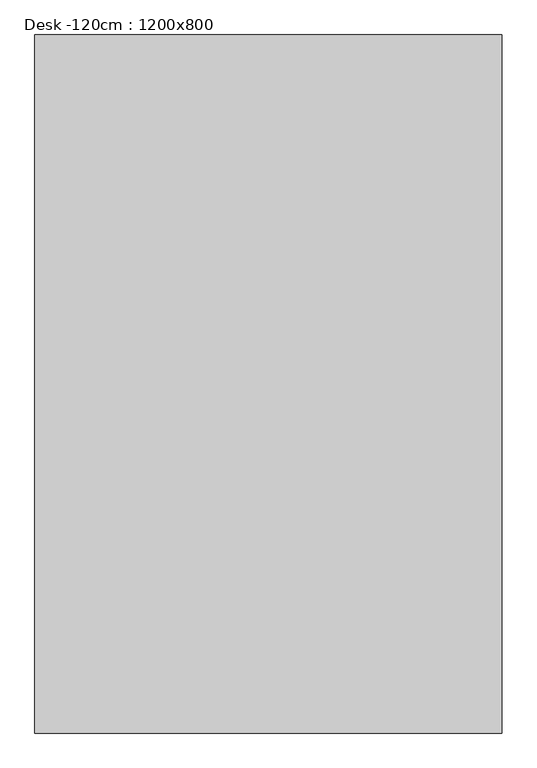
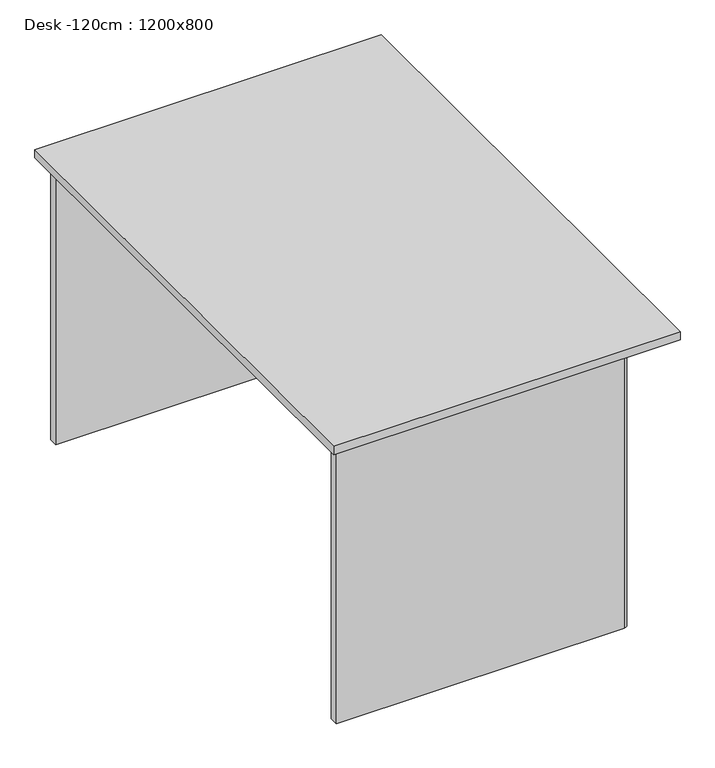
"""IFC4 building model written with IfcOpenShell, lengths in millimetres: furniture geometry, Desk -120cm : 1200x800."""

import ifcopenshell
import ifcopenshell.guid

model = None  # the IFC model being written
_history = None  # IfcOwnerHistory: only IFC2X3 demands one
_inside = {}  # id of a spatial element -> (the spatial element, [elements in it])
_under = {}  # id of a project, library or spatial element -> (it, [spatial elements below it])
_declared = {}  # id of a project -> (the project, [libraries it declares])
_typed = {}  # id of a type object -> (the type object, [elements of that type])
_made_of = {}  # id of a material, layer set ... -> (it, [elements and type objects made of it])


def new_model(schema):
    """Start an empty IFC model of exactly this schema.

    Asked for "IFC4X3", IfcOpenShell would pick the latest addendum, in which some entities
    have other attributes; the version numbers below select the first issue.
    IFC2X3 requires an IfcOwnerHistory on every rooted entity: one is made here for all.
    """
    global model, _history
    if schema == "IFC4X3":
        model = ifcopenshell.file(schema_version=(4, 3, 0, 0))
    else:
        model = ifcopenshell.file(schema=schema)
    _inside.clear()
    _under.clear()
    _declared.clear()
    _typed.clear()
    _made_of.clear()
    _history = None
    if model.schema == "IFC2X3":
        org = make("IfcOrganization", Name="unknown")
        user = make(
            "IfcPersonAndOrganization",
            ThePerson=make("IfcPerson", FamilyName="unknown"),
            TheOrganization=org,
        )
        app = make(
            "IfcApplication",
            ApplicationDeveloper=org,
            Version="unknown",
            ApplicationFullName="unknown",
            ApplicationIdentifier="unknown",
        )
        _history = make(
            "IfcOwnerHistory",
            OwningUser=user,
            OwningApplication=app,
            ChangeAction="ADDED",
            CreationDate=0,
        )
    return model


def make(cls, **values):
    """One entity of the class cls with the attributes given. An attribute that is None is left unset."""
    return model.create_entity(
        cls, **{name: value for name, value in values.items() if value is not None}
    )


def rooted(cls, **values):
    """An entity with a GlobalId (a new one), such as an element, a storey or a relation."""
    return make(cls, GlobalId=ifcopenshell.guid.new(), OwnerHistory=_history, **values)


def si_unit(unit_type, name, prefix=None):
    """IfcSIUnit, for example si_unit("LENGTHUNIT", "METRE", prefix="MILLI")."""
    return make("IfcSIUnit", UnitType=unit_type, Prefix=prefix, Name=name)


def assignment(units):
    """IfcUnitAssignment: the units of a project."""
    return None if units is None else make("IfcUnitAssignment", Units=units)


def point(xyz):
    """IfcCartesianPoint."""
    return None if xyz is None else make("IfcCartesianPoint", Coordinates=xyz)


def direction(xyz):
    """IfcDirection."""
    return None if xyz is None else make("IfcDirection", DirectionRatios=xyz)


def frame(location, z_axis=None, x_axis=None):
    """IfcAxis2Placement3D, a coordinate frame: its origin and axes. An axis left out is left unset."""
    return make(
        "IfcAxis2Placement3D",
        Location=point(location),
        Axis=direction(z_axis),
        RefDirection=direction(x_axis),
    )


def frame_2d(location, x_axis=None):
    """IfcAxis2Placement2D, a coordinate frame in the plane: its origin and x axis."""
    return make(
        "IfcAxis2Placement2D", Location=point(location), RefDirection=direction(x_axis)
    )


def origin():
    """The frame at (0, 0, 0) with its axes left unset."""
    return frame((0.0, 0.0, 0.0))


def place(relative_to, where):
    """IfcLocalPlacement: puts the frame where relative to a parent placement (None: the world)."""
    return make(
        "IfcLocalPlacement", PlacementRelTo=relative_to, RelativePlacement=where
    )


def context(
    kind, dimensions, precision=None, world=None, true_north=None, identifier=None
):
    """IfcGeometricRepresentationContext, for example the 3D "Model" context."""
    return make(
        "IfcGeometricRepresentationContext",
        ContextIdentifier=identifier,
        ContextType=kind,
        CoordinateSpaceDimension=dimensions,
        Precision=precision,
        WorldCoordinateSystem=world,
        TrueNorth=true_north,
    )


def project(units=None, contexts=None):
    """IfcProject with its units and contexts."""
    return rooted(
        "IfcProject",
        Name="project",
        RepresentationContexts=contexts,
        UnitsInContext=assignment(units),
    )


def spatial(cls, under=None, at=None, **own):
    """A site, building, storey or space (cls), placed at a placement, below another one or the project."""
    s = rooted(cls, ObjectPlacement=at, **own)
    if under is not None:
        _under.setdefault(under.id(), (under, []))[1].append(s)
    return s


def polyline(points):
    """IfcPolyline through the points."""
    return make("IfcPolyline", Points=[point(p) for p in points])


def circle_curve(where, radius):
    """IfcCircle in the frame where."""
    return make("IfcCircle", Position=where, Radius=radius)


def trimmed(basis, trim1, trim2, sense, master):
    """IfcTrimmedCurve: the piece of a basis curve between two trims."""
    return make(
        "IfcTrimmedCurve",
        BasisCurve=basis,
        Trim1=trim1,
        Trim2=trim2,
        SenseAgreement=sense,
        MasterRepresentation=master,
    )


def segment(curve, same_sense, transition):
    """IfcCompositeCurveSegment."""
    return make(
        "IfcCompositeCurveSegment",
        Transition=transition,
        SameSense=same_sense,
        ParentCurve=curve,
    )


def composite_curve(segments, self_intersect=None):
    """IfcCompositeCurve: segments joined end to end."""
    return make("IfcCompositeCurve", Segments=segments, SelfIntersect=self_intersect)


def outline(outer, holes=None, kind="AREA"):
    """IfcArbitraryClosedProfileDef: a profile drawn as a closed curve; with holes, ...WithVoids."""
    if holes is None:
        return make("IfcArbitraryClosedProfileDef", ProfileType=kind, OuterCurve=outer)
    return make(
        "IfcArbitraryProfileDefWithVoids",
        ProfileType=kind,
        OuterCurve=outer,
        InnerCurves=holes,
    )


def extrude(swept, where, along, depth):
    """IfcExtrudedAreaSolid: the profile swept, set in the frame where, extruded along a direction by depth."""
    return make(
        "IfcExtrudedAreaSolid",
        SweptArea=swept,
        Position=where,
        ExtrudedDirection=direction(along),
        Depth=depth,
    )


def shape(context_of_items, identifier, shape_type, items):
    """IfcShapeRepresentation: the items that make up one representation, for example the "Body"."""
    return make(
        "IfcShapeRepresentation",
        ContextOfItems=context_of_items,
        RepresentationIdentifier=identifier,
        RepresentationType=shape_type,
        Items=items,
    )


def source(mapping_origin, context_of_items, identifier, shape_type, items):
    """IfcRepresentationMap: a shape defined once, which mapped items show again and again."""
    return make(
        "IfcRepresentationMap",
        MappingOrigin=mapping_origin,
        MappedRepresentation=shape(context_of_items, identifier, shape_type, items),
    )


def transform(
    local_origin,
    x_axis=None,
    y_axis=None,
    z_axis=None,
    scale=None,
    scale2=None,
    scale3=None,
    uniform=True,
):
    """IfcCartesianTransformationOperator3D, or its non-uniform kind. x_axis, y_axis, z_axis: its Axis1, 2, 3."""
    if uniform:
        return make(
            "IfcCartesianTransformationOperator3D",
            Axis1=direction(x_axis),
            Axis2=direction(y_axis),
            LocalOrigin=point(local_origin),
            Scale=scale,
            Axis3=direction(z_axis),
        )
    return make(
        "IfcCartesianTransformationOperator3DnonUniform",
        Axis1=direction(x_axis),
        Axis2=direction(y_axis),
        LocalOrigin=point(local_origin),
        Scale=scale,
        Axis3=direction(z_axis),
        Scale2=scale2,
        Scale3=scale3,
    )


def mapped(mapping_source, mapping_target):
    """IfcMappedItem: shows the shape of a source again, moved by a transform."""
    return make(
        "IfcMappedItem", MappingSource=mapping_source, MappingTarget=mapping_target
    )


def made_of(thing, what):
    """Note that an element or type object is made of a material, layer set ...; save() writes the relation."""
    if what is not None:
        _made_of.setdefault(what.id(), (what, []))[1].append(thing)
    return thing


def element(
    cls,
    number,
    at=None,
    inside=None,
    cuts=None,
    type_object=None,
    material=None,
    context=None,
    identifier="Body",
    shape_type=None,
    held_by="IfcProductDefinitionShape",
    body=None,
    shapes=None,
    **own,
):
    """One element of the class cls, such as IfcWall. Its Tag is "e" and its number.

    at: its placement. inside: the storey or other place that contains it. cuts: it is an
    opening in that element (IfcRelVoidsElement). A single representation is given by context,
    identifier, shape_type and body (its items); several are given by shapes. held_by: the class
    of the entity that holds the representations. save() writes the other relations.
    """
    e = rooted(cls, Tag="e%d" % number, ObjectPlacement=at, **own)
    if body is not None:
        shapes = [shape(context, identifier, shape_type, body)]
    if shapes is not None:
        e.Representation = make(held_by, Representations=shapes)
    if inside is not None:
        _inside.setdefault(inside.id(), (inside, []))[1].append(e)
    if cuts is not None:
        rooted(
            "IfcRelVoidsElement", RelatingBuildingElement=cuts, RelatedOpeningElement=e
        )
    if type_object is not None:
        _typed.setdefault(type_object.id(), (type_object, []))[1].append(e)
    return made_of(e, material)


def aggregate(whole, parts):
    """IfcRelAggregates: a whole, such as a stair, and the parts it consists of."""
    return rooted("IfcRelAggregates", RelatingObject=whole, RelatedObjects=parts)


def save(model, path):
    """Write the relations noted so far, then the file.

    IfcRelAggregates (storeys below a building ...), IfcRelContainedInSpatialStructure (elements
    in a storey), IfcRelDefinesByType, IfcRelAssociatesMaterial and IfcRelDeclares: one each for
    every whole, place, type object, material and project.
    """
    for whole, parts in _under.values():
        aggregate(whole, parts)
    for where, things in _inside.values():
        rooted(
            "IfcRelContainedInSpatialStructure",
            RelatedElements=things,
            RelatingStructure=where,
        )
    for kind, things in _typed.values():
        rooted("IfcRelDefinesByType", RelatedObjects=things, RelatingType=kind)
    for what, things in _made_of.values():
        rooted("IfcRelAssociatesMaterial", RelatedObjects=things, RelatingMaterial=what)
    for by, libraries in _declared.values():
        rooted("IfcRelDeclares", RelatingContext=by, RelatedDefinitions=libraries)
    model.write(path)


def desk_120cm_1200x800_96458f44(model_context):
    return source(origin(), model_context, "Body", "SweptSolid", [
        extrude(outline(polyline([(700.0, 46.1784647), (680.0, 46.1784647), (680.0, 1140.0), (700.0, 1140.0), (700.0, 46.1784647)])), frame((0.0, 0.0, 220.0), z_axis=(0.0, 0.0, 1.0), x_axis=(1.0, 0.0, 0.0)), (0.0, 0.0, 1.0), 480.0),
        extrude(outline(composite_curve([segment(polyline([(21.1103142, 1168.8215353), (686.1103142, 1168.8215353)]), True, "CONTINUOUS"), segment(trimmed(circle_curve(frame_2d((686.1103142, 1158.8215353)), 10.0), [point((686.1103142, 1168.8215353))], [point((686.1103142, 1148.8215353))], False, "CARTESIAN"), True, "CONTINUOUS"), segment(polyline([(686.1103142, 1148.8215353), (21.1103142, 1148.8215353), (21.1103142, 1168.8215353)]), True, "CONTINUOUS")], self_intersect=False)), frame((0.0, 0.0, 20.0), z_axis=(0.0, 0.0, 1.0), x_axis=(1.0, 0.0, 0.0)), (0.0, 0.0, 1.0), 680.0),
        extrude(outline(composite_curve([segment(polyline([(21.1103142, 26.1784647), (21.1103142, 46.1784647), (686.1103142, 46.1784647)]), True, "CONTINUOUS"), segment(trimmed(circle_curve(frame_2d((686.1103142, 36.1784647)), 10.0), [point((686.1103142, 46.1784647))], [point((686.1103142, 26.1784647))], False, "CARTESIAN"), True, "CONTINUOUS"), segment(polyline([(686.1103142, 26.1784647), (21.1103142, 26.1784647)]), True, "CONTINUOUS")], self_intersect=False)), frame((0.0, 0.0, 20.0), z_axis=(0.0, 0.0, 1.0), x_axis=(1.0, 0.0, 0.0)), (0.0, 0.0, 1.0), 680.0),
        extrude(outline(polyline([(0.0, 1195.0), (800.0, 1195.0), (800.0, 0.0), (0.0, 0.0), (0.0, 1195.0)])), frame((0.0, 0.0, 700.0), z_axis=(0.0, 0.0, 1.0), x_axis=(1.0, 0.0, 0.0)), (0.0, 0.0, 1.0), 20.0),
    ])


if __name__ == "__main__":
    model = new_model("IFC4")
    model_context = context("Model", 3, world=origin())
    ifc_project = project(units=[si_unit("LENGTHUNIT", "METRE", prefix="MILLI")], contexts=[model_context])
    site = spatial("IfcSite", under=ifc_project)
    building = spatial("IfcBuilding", under=site)
    placement = place(None, origin())
    desk_120cm_1200x800_shape = desk_120cm_1200x800_96458f44(model_context)
    element("IfcFurniture", 1, ObjectType="Desk -120cm : 1200x800", at=placement, inside=building, context=model_context, shape_type="MappedRepresentation", body=[
        mapped(desk_120cm_1200x800_shape, transform((0.0, 0.0, 0.0), x_axis=(1.0, 0.0, 0.0), y_axis=(0.0, 1.0, 0.0), z_axis=(0.0, 0.0, 1.0))),
    ])
    save(model, "model.ifc")
